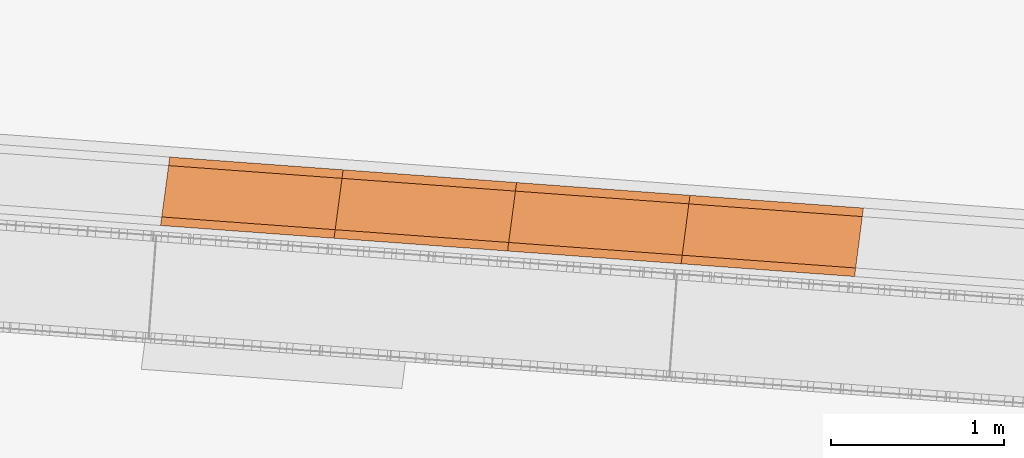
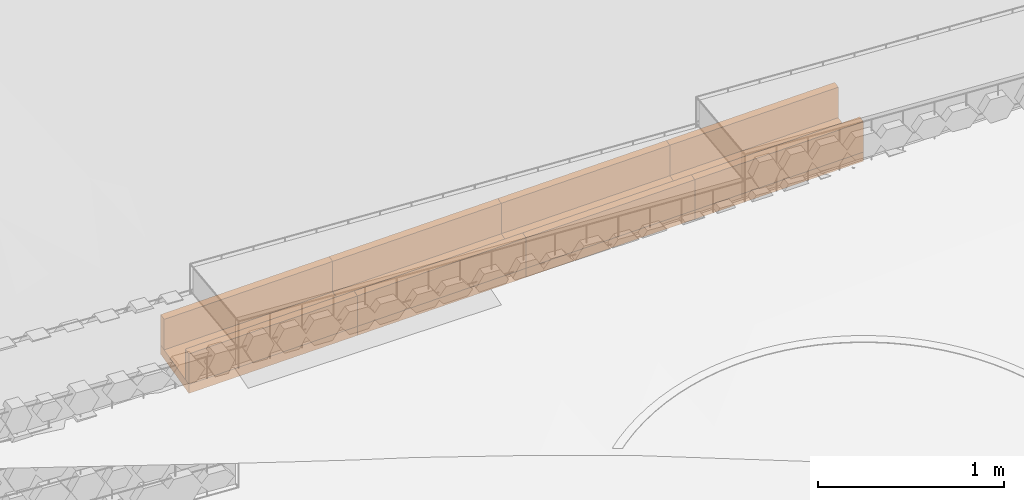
# Not in any storey, part 26 of 46: 12 proxies.
"""IFC4 model written with IfcOpenShell, lengths in metres."""

import ifcopenshell
import ifcopenshell.guid

model = None  # the IFC model being written
_history = None  # IfcOwnerHistory: only IFC2X3 demands one
_inside = {}  # id of a spatial element -> (the spatial element, [elements in it])
_under = {}  # id of a project, library or spatial element -> (it, [spatial elements below it])
_declared = {}  # id of a project -> (the project, [libraries it declares])
_typed = {}  # id of a type object -> (the type object, [elements of that type])
_made_of = {}  # id of a material, layer set ... -> (it, [elements and type objects made of it])


def new_model(schema):
    """Start an empty IFC model of exactly this schema.

    Asked for "IFC4X3", IfcOpenShell would pick the latest addendum, in which some entities
    have other attributes; the version numbers below select the first issue.
    IFC2X3 requires an IfcOwnerHistory on every rooted entity: one is made here for all.
    """
    global model, _history
    if schema == "IFC4X3":
        model = ifcopenshell.file(schema_version=(4, 3, 0, 0))
    else:
        model = ifcopenshell.file(schema=schema)
    _inside.clear()
    _under.clear()
    _declared.clear()
    _typed.clear()
    _made_of.clear()
    _history = None
    if model.schema == "IFC2X3":
        org = make("IfcOrganization", Name="unknown")
        user = make(
            "IfcPersonAndOrganization",
            ThePerson=make("IfcPerson", FamilyName="unknown"),
            TheOrganization=org,
        )
        app = make(
            "IfcApplication",
            ApplicationDeveloper=org,
            Version="unknown",
            ApplicationFullName="unknown",
            ApplicationIdentifier="unknown",
        )
        _history = make(
            "IfcOwnerHistory",
            OwningUser=user,
            OwningApplication=app,
            ChangeAction="ADDED",
            CreationDate=0,
        )
    return model


def make(cls, **values):
    """One entity of the class cls with the attributes given. An attribute that is None is left unset."""
    return model.create_entity(
        cls, **{name: value for name, value in values.items() if value is not None}
    )


def rooted(cls, **values):
    """An entity with a GlobalId (a new one), such as an element, a storey or a relation."""
    return make(cls, GlobalId=ifcopenshell.guid.new(), OwnerHistory=_history, **values)


def si_unit(unit_type, name, prefix=None):
    """IfcSIUnit, for example si_unit("LENGTHUNIT", "METRE", prefix="MILLI")."""
    return make("IfcSIUnit", UnitType=unit_type, Prefix=prefix, Name=name)


def assignment(units):
    """IfcUnitAssignment: the units of a project."""
    return None if units is None else make("IfcUnitAssignment", Units=units)


def point(xyz):
    """IfcCartesianPoint."""
    return None if xyz is None else make("IfcCartesianPoint", Coordinates=xyz)


def direction(xyz):
    """IfcDirection."""
    return None if xyz is None else make("IfcDirection", DirectionRatios=xyz)


def frame(location, z_axis=None, x_axis=None):
    """IfcAxis2Placement3D, a coordinate frame: its origin and axes. An axis left out is left unset."""
    return make(
        "IfcAxis2Placement3D",
        Location=point(location),
        Axis=direction(z_axis),
        RefDirection=direction(x_axis),
    )


def origin_with_axes():
    """The frame at (0, 0, 0) with the z axis (0, 0, 1) and the x axis (1, 0, 0) written out."""
    return frame((0.0, 0.0, 0.0), z_axis=(0.0, 0.0, 1.0), x_axis=(1.0, 0.0, 0.0))


def place(relative_to, where):
    """IfcLocalPlacement: puts the frame where relative to a parent placement (None: the world)."""
    return make(
        "IfcLocalPlacement", PlacementRelTo=relative_to, RelativePlacement=where
    )


def context(
    kind, dimensions, precision=None, world=None, true_north=None, identifier=None
):
    """IfcGeometricRepresentationContext, for example the 3D "Model" context."""
    return make(
        "IfcGeometricRepresentationContext",
        ContextIdentifier=identifier,
        ContextType=kind,
        CoordinateSpaceDimension=dimensions,
        Precision=precision,
        WorldCoordinateSystem=world,
        TrueNorth=true_north,
    )


def subcontext(parent, identifier, kind, view, scale=None):
    """IfcGeometricRepresentationSubContext, for example "Body" below "Model"."""
    return make(
        "IfcGeometricRepresentationSubContext",
        ContextIdentifier=identifier,
        ContextType=kind,
        ParentContext=parent,
        TargetScale=scale,
        TargetView=view,
    )


def project(units=None, contexts=None):
    """IfcProject with its units and contexts."""
    return rooted(
        "IfcProject",
        Name="project",
        RepresentationContexts=contexts,
        UnitsInContext=assignment(units),
    )


def spatial(cls, under=None, at=None, **own):
    """A site, building, storey or space (cls), placed at a placement, below another one or the project."""
    s = rooted(cls, ObjectPlacement=at, **own)
    if under is not None:
        _under.setdefault(under.id(), (under, []))[1].append(s)
    return s


def point_list(points):
    """IfcCartesianPointList2D or 3D."""
    cls = (
        "IfcCartesianPointList2D" if len(points[0]) == 2 else "IfcCartesianPointList3D"
    )
    return make(cls, CoordList=points)


def polygons(points, faces, closed=None, point_numbers=None):
    """IfcPolygonalFaceSet: a face is its outer loop, then its inner loops; points numbered from 1."""
    made = []
    for loops in faces:
        if len(loops) == 1:
            made.append(make("IfcIndexedPolygonalFace", CoordIndex=loops[0]))
        else:
            made.append(
                make(
                    "IfcIndexedPolygonalFaceWithVoids",
                    CoordIndex=loops[0],
                    InnerCoordIndices=loops[1:],
                )
            )
    return make(
        "IfcPolygonalFaceSet",
        Coordinates=point_list(points),
        Closed=closed,
        Faces=made,
        PnIndex=point_numbers,
    )


def shape(context_of_items, identifier, shape_type, items):
    """IfcShapeRepresentation: the items that make up one representation, for example the "Body"."""
    return make(
        "IfcShapeRepresentation",
        ContextOfItems=context_of_items,
        RepresentationIdentifier=identifier,
        RepresentationType=shape_type,
        Items=items,
    )


def material(Name=None, Category=None):
    """IfcMaterial."""
    return make("IfcMaterial", Name=Name, Category=Category)


def made_of(thing, what):
    """Note that an element or type object is made of a material, layer set ...; save() writes the relation."""
    if what is not None:
        _made_of.setdefault(what.id(), (what, []))[1].append(thing)
    return thing


def element(
    cls,
    number,
    at=None,
    inside=None,
    cuts=None,
    type_object=None,
    material=None,
    context=None,
    identifier="Body",
    shape_type=None,
    held_by="IfcProductDefinitionShape",
    body=None,
    shapes=None,
    **own,
):
    """One element of the class cls, such as IfcWall. Its Tag is "e" and its number.

    at: its placement. inside: the storey or other place that contains it. cuts: it is an
    opening in that element (IfcRelVoidsElement). A single representation is given by context,
    identifier, shape_type and body (its items); several are given by shapes. held_by: the class
    of the entity that holds the representations. save() writes the other relations.
    """
    e = rooted(cls, Tag="e%d" % number, ObjectPlacement=at, **own)
    if body is not None:
        shapes = [shape(context, identifier, shape_type, body)]
    if shapes is not None:
        e.Representation = make(held_by, Representations=shapes)
    if inside is not None:
        _inside.setdefault(inside.id(), (inside, []))[1].append(e)
    if cuts is not None:
        rooted(
            "IfcRelVoidsElement", RelatingBuildingElement=cuts, RelatedOpeningElement=e
        )
    if type_object is not None:
        _typed.setdefault(type_object.id(), (type_object, []))[1].append(e)
    return made_of(e, material)


def aggregate(whole, parts):
    """IfcRelAggregates: a whole, such as a stair, and the parts it consists of."""
    return rooted("IfcRelAggregates", RelatingObject=whole, RelatedObjects=parts)


def save(model, path):
    """Write the relations noted so far, then the file.

    IfcRelAggregates (storeys below a building ...), IfcRelContainedInSpatialStructure (elements
    in a storey), IfcRelDefinesByType, IfcRelAssociatesMaterial and IfcRelDeclares: one each for
    every whole, place, type object, material and project.
    """
    for whole, parts in _under.values():
        aggregate(whole, parts)
    for where, things in _inside.values():
        rooted(
            "IfcRelContainedInSpatialStructure",
            RelatedElements=things,
            RelatingStructure=where,
        )
    for kind, things in _typed.values():
        rooted("IfcRelDefinesByType", RelatedObjects=things, RelatingType=kind)
    for what, things in _made_of.values():
        rooted("IfcRelAssociatesMaterial", RelatedObjects=things, RelatingMaterial=what)
    for by, libraries in _declared.values():
        rooted("IfcRelDeclares", RelatingContext=by, RelatedDefinitions=libraries)
    model.write(path)


model = new_model("IFC4")

# Units and contexts
model_context = context("Model", 3, precision=1e-05, world=origin_with_axes(), true_north=direction((0.0, 1.0)))
body_context = subcontext(model_context, "Body", "Model", "MODEL_VIEW")
ifc_project = project(units=[si_unit("VOLUMEUNIT", "CUBIC_METRE"), si_unit("LENGTHUNIT", "METRE"), si_unit("AREAUNIT", "SQUARE_METRE")], contexts=[model_context])

# Site
site_placement = place(None, origin_with_axes())
site = spatial("IfcSite", under=ifc_project, at=site_placement, Name="Lares · Rua das Mercês · artigo 4771")

# Proxies
ifc_material = material(Name="Caleiras · betão", Category="concrete")
proxy_1_placement = place(site_placement, frame((0.0, 0.0, 0.0), z_axis=(0.0, 0.0, 1.0), x_axis=(1.0, -1.03767253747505e-17, 0.0)))
element("IfcBuildingElementProxy", 1, at=proxy_1_placement, inside=site, material=ifc_material, Name="Acesso · canal lateral", ObjectType="Acesso · canal lateral", PredefinedType="USERDEFINED", context=body_context, shape_type="Tessellation", body=[
    polygons([(58.6276260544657, 1.86048415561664, 14.0812062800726), (58.6806627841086, 2.25695244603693, 14.0812062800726), (59.6853417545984, 2.18307205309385, 14.1556643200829), (59.6323050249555, 1.78660376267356, 14.1556643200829), (58.6276260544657, 1.86048415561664, 14.1412062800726), (58.6806627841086, 2.25695244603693, 14.1412062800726), (59.6853417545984, 2.18307205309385, 14.2156643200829), (59.6323050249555, 1.78660376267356, 14.2156643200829)], [[[4, 3, 2, 1]], [[5, 6, 7, 8]], [[1, 2, 6, 5]], [[2, 3, 7, 6]], [[3, 4, 8, 7]], [[4, 1, 5, 8]]]),
])
proxy_2_placement = place(site_placement, frame((0.0, 0.0, 0.0), z_axis=(0.0, 0.0, 1.0), x_axis=(1.0, -1.03767253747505e-17, 0.0)))
element("IfcBuildingElementProxy", 2, at=proxy_2_placement, inside=site, material=ifc_material, Name="Acesso · canal lateral", ObjectType="Acesso · canal lateral", PredefinedType="USERDEFINED", context=body_context, shape_type="Tessellation", body=[
    polygons([(58.6276260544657, 1.86048415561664, 14.1412062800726), (58.6342556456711, 1.91004269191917, 14.1412062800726), (59.6389346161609, 1.8361622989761, 14.2156643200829), (59.6323050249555, 1.78660376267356, 14.2156643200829), (58.6276260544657, 1.86048415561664, 14.3412062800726), (58.6342556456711, 1.91004269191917, 14.3412062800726), (59.6389346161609, 1.8361622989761, 14.4156643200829), (59.6323050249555, 1.78660376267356, 14.4156643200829)], [[[4, 3, 2, 1]], [[5, 6, 7, 8]], [[1, 2, 6, 5]], [[2, 3, 7, 6]], [[3, 4, 8, 7]], [[4, 1, 5, 8]]]),
])
proxy_3_placement = place(site_placement, frame((0.0, 0.0, 0.0), z_axis=(0.0, 0.0, 1.0), x_axis=(1.0, -1.03767253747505e-17, 0.0)))
element("IfcBuildingElementProxy", 3, at=proxy_3_placement, inside=site, material=ifc_material, Name="Acesso · canal lateral", ObjectType="Acesso · canal lateral", PredefinedType="USERDEFINED", context=body_context, shape_type="Tessellation", body=[
    polygons([(58.6740331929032, 2.20739390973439, 14.1412062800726), (58.6806627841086, 2.25695244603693, 14.1412062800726), (59.6853417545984, 2.18307205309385, 14.2156643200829), (59.678712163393, 2.13351351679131, 14.2156643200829), (58.6740331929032, 2.20739390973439, 14.3412062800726), (58.6806627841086, 2.25695244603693, 14.3412062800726), (59.6853417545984, 2.18307205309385, 14.4156643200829), (59.678712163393, 2.13351351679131, 14.4156643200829)], [[[4, 3, 2, 1]], [[5, 6, 7, 8]], [[1, 2, 6, 5]], [[2, 3, 7, 6]], [[3, 4, 8, 7]], [[4, 1, 5, 8]]]),
])
proxy_4_placement = place(site_placement, frame((0.0, 0.0, 0.0), z_axis=(0.0, 0.0, 1.0), x_axis=(1.0, -1.03767253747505e-17, 0.0)))
element("IfcBuildingElementProxy", 4, at=proxy_4_placement, inside=site, material=ifc_material, Name="Acesso · canal lateral", ObjectType="Acesso · canal lateral", PredefinedType="USERDEFINED", context=body_context, shape_type="Tessellation", body=[
    polygons([(59.6325935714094, 1.78656537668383, 14.1556643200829), (59.6850532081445, 2.18311043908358, 14.1556643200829), (60.689742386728, 2.10922924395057, 14.2301223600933), (60.637282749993, 1.71268418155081, 14.2301223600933), (59.6325935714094, 1.78656537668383, 14.2156643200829), (59.6850532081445, 2.18311043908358, 14.2156643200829), (60.689742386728, 2.10922924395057, 14.2901223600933), (60.637282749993, 1.71268418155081, 14.2901223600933)], [[[4, 3, 2, 1]], [[5, 6, 7, 8]], [[1, 2, 6, 5]], [[2, 3, 7, 6]], [[3, 4, 8, 7]], [[4, 1, 5, 8]]]),
])
proxy_5_placement = place(site_placement, frame((0.0, 0.0, 0.0), z_axis=(0.0, 0.0, 1.0), x_axis=(1.0, -1.03767253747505e-17, 0.0)))
element("IfcBuildingElementProxy", 5, at=proxy_5_placement, inside=site, material=ifc_material, Name="Acesso · canal lateral", ObjectType="Acesso · canal lateral", PredefinedType="USERDEFINED", context=body_context, shape_type="Tessellation", body=[
    polygons([(59.6325935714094, 1.78656537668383, 14.2156643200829), (59.6391510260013, 1.8361335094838, 14.2156643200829), (60.6438402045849, 1.76225231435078, 14.2901223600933), (60.637282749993, 1.71268418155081, 14.2901223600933), (59.6325935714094, 1.78656537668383, 14.4156643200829), (59.6391510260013, 1.8361335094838, 14.4156643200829), (60.6438402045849, 1.76225231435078, 14.4901223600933), (60.637282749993, 1.71268418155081, 14.4901223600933)], [[[4, 3, 2, 1]], [[5, 6, 7, 8]], [[1, 2, 6, 5]], [[2, 3, 7, 6]], [[3, 4, 8, 7]], [[4, 1, 5, 8]]]),
])
proxy_6_placement = place(site_placement, frame((0.0, 0.0, 0.0), z_axis=(0.0, 0.0, 1.0), x_axis=(1.0, -1.03767253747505e-17, 0.0)))
element("IfcBuildingElementProxy", 6, at=proxy_6_placement, inside=site, material=ifc_material, Name="Acesso · canal lateral", ObjectType="Acesso · canal lateral", PredefinedType="USERDEFINED", context=body_context, shape_type="Tessellation", body=[
    polygons([(59.6784957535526, 2.13354230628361, 14.2156643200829), (59.6850532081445, 2.18311043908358, 14.2156643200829), (60.689742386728, 2.10922924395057, 14.2901223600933), (60.6831849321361, 2.0596611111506, 14.2901223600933), (59.6784957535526, 2.13354230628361, 14.4156643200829), (59.6850532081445, 2.18311043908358, 14.4156643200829), (60.689742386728, 2.10922924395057, 14.4901223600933), (60.6831849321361, 2.0596611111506, 14.4901223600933)], [[[4, 3, 2, 1]], [[5, 6, 7, 8]], [[1, 2, 6, 5]], [[2, 3, 7, 6]], [[3, 4, 8, 7]], [[4, 1, 5, 8]]]),
])
proxy_7_placement = place(site_placement, frame((0.0, 0.0, 0.0), z_axis=(0.0, 0.0, 1.0), x_axis=(1.0, -1.03767253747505e-17, 0.0)))
element("IfcBuildingElementProxy", 7, at=proxy_7_placement, inside=site, material=ifc_material, Name="Acesso · canal lateral", ObjectType="Acesso · canal lateral", PredefinedType="USERDEFINED", context=body_context, shape_type="Tessellation", body=[
    polygons([(60.6375793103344, 1.71264517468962, 14.2301223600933), (60.6894458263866, 2.10926825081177, 14.2301223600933), (61.6941456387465, 2.03538624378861, 14.3045804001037), (61.6422791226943, 1.63876316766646, 14.3045804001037), (60.6375793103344, 1.71264517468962, 14.2901223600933), (60.6894458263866, 2.10926825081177, 14.2901223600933), (61.6941456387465, 2.03538624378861, 14.3645804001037), (61.6422791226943, 1.63876316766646, 14.3645804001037)], [[[4, 3, 2, 1]], [[5, 6, 7, 8]], [[1, 2, 6, 5]], [[2, 3, 7, 6]], [[3, 4, 8, 7]], [[4, 1, 5, 8]]]),
])
proxy_8_placement = place(site_placement, frame((0.0, 0.0, 0.0), z_axis=(0.0, 0.0, 1.0), x_axis=(1.0, -1.03767253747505e-17, 0.0)))
element("IfcBuildingElementProxy", 8, at=proxy_8_placement, inside=site, material=ifc_material, Name="Acesso · canal lateral", ObjectType="Acesso · canal lateral", PredefinedType="USERDEFINED", context=body_context, shape_type="Tessellation", body=[
    polygons([(60.6375793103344, 1.71264517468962, 14.2901223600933), (60.6440626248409, 1.76222305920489, 14.2901223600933), (61.6487624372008, 1.68834105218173, 14.3645804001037), (61.6422791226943, 1.63876316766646, 14.3645804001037), (60.6375793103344, 1.71264517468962, 14.4901223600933), (60.6440626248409, 1.76222305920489, 14.4901223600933), (61.6487624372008, 1.68834105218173, 14.5645804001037), (61.6422791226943, 1.63876316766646, 14.5645804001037)], [[[4, 3, 2, 1]], [[5, 6, 7, 8]], [[1, 2, 6, 5]], [[2, 3, 7, 6]], [[3, 4, 8, 7]], [[4, 1, 5, 8]]]),
])
proxy_9_placement = place(site_placement, frame((0.0, 0.0, 0.0), z_axis=(0.0, 0.0, 1.0), x_axis=(1.0, -1.03767253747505e-17, 0.0)))
element("IfcBuildingElementProxy", 9, at=proxy_9_placement, inside=site, material=ifc_material, Name="Acesso · canal lateral", ObjectType="Acesso · canal lateral", PredefinedType="USERDEFINED", context=body_context, shape_type="Tessellation", body=[
    polygons([(60.6829625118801, 2.0596903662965, 14.2901223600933), (60.6894458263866, 2.10926825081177, 14.2901223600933), (61.6941456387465, 2.03538624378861, 14.3645804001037), (61.68766232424, 1.98580835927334, 14.3645804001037), (60.6829625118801, 2.0596903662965, 14.4901223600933), (60.6894458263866, 2.10926825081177, 14.4901223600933), (61.6941456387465, 2.03538624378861, 14.5645804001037), (61.68766232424, 1.98580835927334, 14.5645804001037)], [[[4, 3, 2, 1]], [[5, 6, 7, 8]], [[1, 2, 6, 5]], [[2, 3, 7, 6]], [[3, 4, 8, 7]], [[4, 1, 5, 8]]]),
])
proxy_10_placement = place(site_placement, frame((0.0, 0.0, 0.0), z_axis=(0.0, 0.0, 1.0), x_axis=(1.0, -1.03767253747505e-17, 0.0)))
element("IfcBuildingElementProxy", 10, at=proxy_10_placement, inside=site, material=ifc_material, Name="Acesso · canal lateral", ObjectType="Acesso · canal lateral", PredefinedType="USERDEFINED", context=body_context, shape_type="Tessellation", body=[
    polygons([(61.6425840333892, 1.63872353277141, 14.3045804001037), (61.6938407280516, 2.03542587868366, 14.3045804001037), (62.6985516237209, 1.9615430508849, 14.379038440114), (62.6472949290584, 1.56484070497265, 14.379038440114), (61.6425840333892, 1.63872353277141, 14.3645804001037), (61.6938407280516, 2.03542587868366, 14.3645804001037), (62.6985516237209, 1.9615430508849, 14.439038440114), (62.6472949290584, 1.56484070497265, 14.439038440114)], [[[4, 3, 2, 1]], [[5, 6, 7, 8]], [[1, 2, 6, 5]], [[2, 3, 7, 6]], [[3, 4, 8, 7]], [[4, 1, 5, 8]]]),
])
proxy_11_placement = place(site_placement, frame((0.0, 0.0, 0.0), z_axis=(0.0, 0.0, 1.0), x_axis=(1.0, -1.03767253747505e-17, 0.0)))
element("IfcBuildingElementProxy", 11, at=proxy_11_placement, inside=site, material=ifc_material, Name="Acesso · canal lateral", ObjectType="Acesso · canal lateral", PredefinedType="USERDEFINED", context=body_context, shape_type="Tessellation", body=[
    polygons([(61.6425840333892, 1.63872353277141, 14.3645804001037), (61.648991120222, 1.68831132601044, 14.3645804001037), (62.6537020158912, 1.61442849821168, 14.439038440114), (62.6472949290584, 1.56484070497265, 14.439038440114), (61.6425840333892, 1.63872353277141, 14.5645804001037), (61.648991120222, 1.68831132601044, 14.5645804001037), (62.6537020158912, 1.61442849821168, 14.639038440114), (62.6472949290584, 1.56484070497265, 14.639038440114)], [[[4, 3, 2, 1]], [[5, 6, 7, 8]], [[1, 2, 6, 5]], [[2, 3, 7, 6]], [[3, 4, 8, 7]], [[4, 1, 5, 8]]]),
])
proxy_12_placement = place(site_placement, frame((0.0, 0.0, 0.0), z_axis=(0.0, 0.0, 1.0), x_axis=(1.0, -1.03767253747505e-17, 0.0)))
element("IfcBuildingElementProxy", 12, at=proxy_12_placement, inside=site, material=ifc_material, Name="Acesso · canal lateral", ObjectType="Acesso · canal lateral", PredefinedType="USERDEFINED", context=body_context, shape_type="Tessellation", body=[
    polygons([(61.6874336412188, 1.98583808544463, 14.3645804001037), (61.6938407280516, 2.03542587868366, 14.3645804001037), (62.6985516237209, 1.9615430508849, 14.439038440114), (62.692144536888, 1.91195525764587, 14.439038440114), (61.6874336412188, 1.98583808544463, 14.5645804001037), (61.6938407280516, 2.03542587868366, 14.5645804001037), (62.6985516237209, 1.9615430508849, 14.639038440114), (62.692144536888, 1.91195525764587, 14.639038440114)], [[[4, 3, 2, 1]], [[5, 6, 7, 8]], [[1, 2, 6, 5]], [[2, 3, 7, 6]], [[3, 4, 8, 7]], [[4, 1, 5, 8]]]),
])

save(model, "model.ifc")
